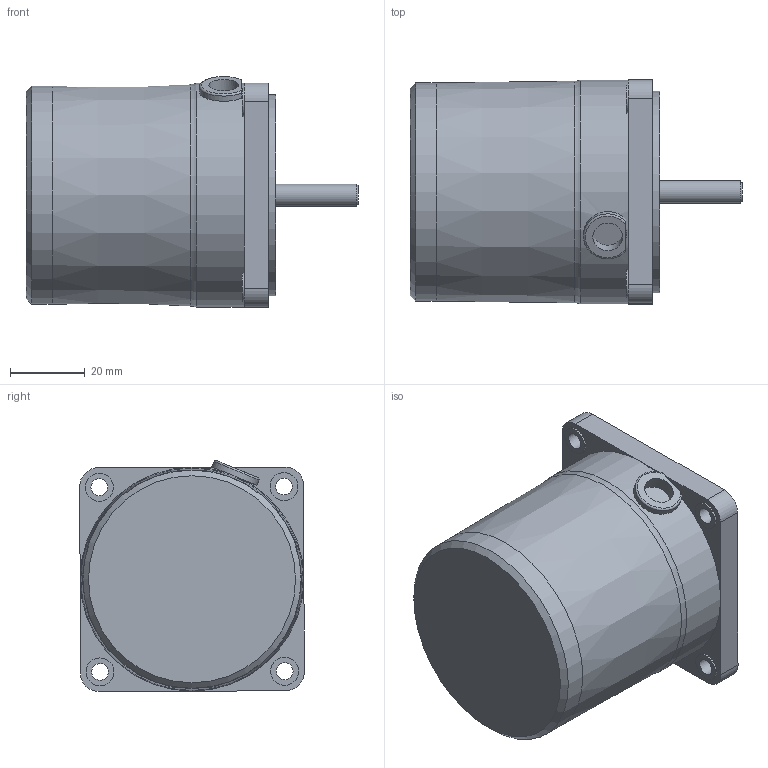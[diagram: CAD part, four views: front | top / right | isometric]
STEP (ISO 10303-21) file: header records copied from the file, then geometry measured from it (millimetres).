
FILE_DESCRIPTION((''),'2;1');
FILE_NAME('D:\김성묵\업무폴더\개발 파일\프로젝트 개발 AB등급\AC표준형 개발자료\90각 이하 표준형 개발\도면작성 자료\3D 도면\홈페이지용 3D 파일\3W MOTOR\S6I03S.stp','2015-03-25T10:42:47',('smkim'),(''),'Autodesk Inventor 2012','Autodesk Inventor 2012','');
FILE_SCHEMA(('AUTOMOTIVE_DESIGN { 1 0 10303 214 1 1 1 1 }'));
Length unit declared in the file: millimetre
Products named in the file (4): S6I03S; S6I03GㅁCE; S6_HOUSNG A_S; 6_CORD BUSH
Assembly tree (3 placements, depth 2):
  S6I03S
    S6I03GㅁCE
    S6_HOUSNG A_S
    6_CORD BUSH
Bounding box: 89 x 60.17 x 61.92 mm (x, y, z)
Volume: 182725.9 mm3; surface area: 27536.3 mm2
Topology: 3 solids, 3 shells, 82 faces, 200 edges, 131 vertices
Faces by surface type: plane 46, cylinder 29, cone 5, torus 2
Full cylindrical faces by diameter (mm): 4.5 x4, 6 x1, 7.5 x4, 8 x1, 10.1 x1, 25 x1, 54 x1, 58.5 x1, 60 x1
Entity records: 2479 total; most frequent: CARTESIAN_POINT 455, DIRECTION 424, ORIENTED_EDGE 354, EDGE_CURVE 177, AXIS2_PLACEMENT_3D 166, VERTEX_POINT 128, EDGE_LOOP 123, VECTOR 92
